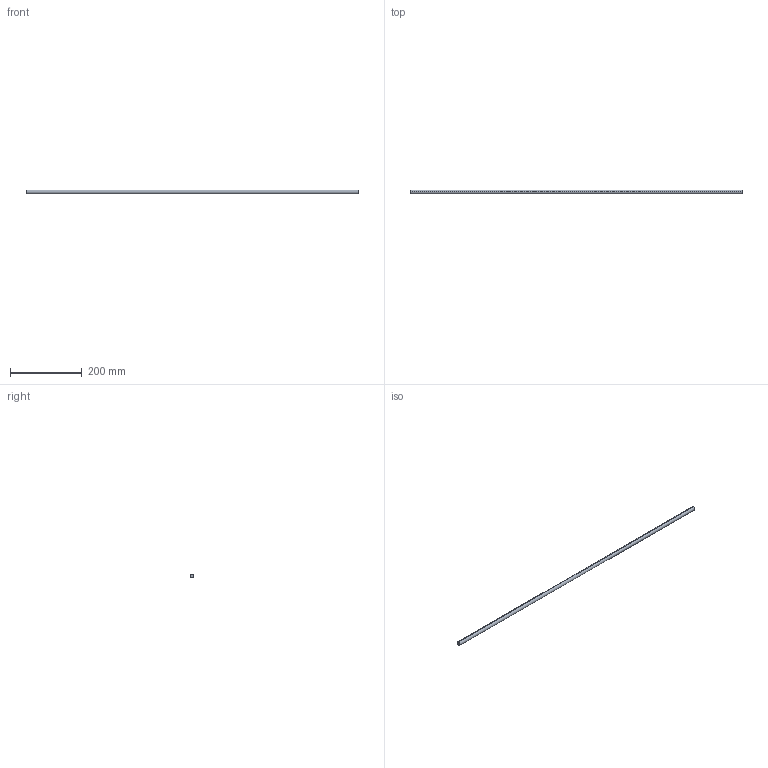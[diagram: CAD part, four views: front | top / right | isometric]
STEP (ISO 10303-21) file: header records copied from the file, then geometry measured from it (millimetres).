
FILE_DESCRIPTION (( 'STEP AP214' ), '1' );
FILE_NAME ('Querreling_2S-Rel_7102_25mm-Halter_KAB-1000.step', '2010-09-22T15:06:08', ( 'grass' ), ( '' ), 'SwSTEP 2.0', 'SolidWorks 2010', '' );
FILE_SCHEMA (( 'AUTOMOTIVE_DESIGN' ));
Length unit declared in the file: millimetre
Products named in the file (1): Querreling_2S-Rel_7102_25mm-Halter_KAB-1000
Bounding box: 924 x 11 x 11 mm (x, y, z)
Volume: 87810.7 mm3; surface area: 32121.2 mm2
Topology: 1 solids, 1 shells, 4 faces, 6 edges, 4 vertices
Faces by surface type: cylinder 2, plane 2
Entity records: 128 total; most frequent: DIRECTION 20, CARTESIAN_POINT 15, ORIENTED_EDGE 12, AXIS2_PLACEMENT_3D 9, EDGE_CURVE 6, VERTEX_POINT 4, CIRCLE 4, FACE_OUTER_BOUND 4
